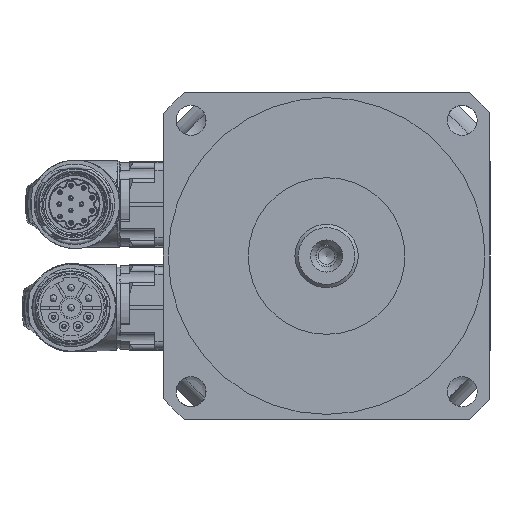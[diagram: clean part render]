
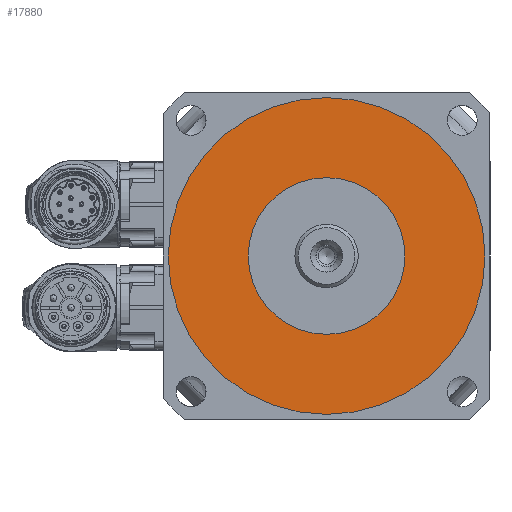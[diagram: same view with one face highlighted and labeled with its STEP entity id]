
A CAD part, left-side view. The second image highlights one B-rep face of the part: STEP entity #17880.
In plain terms, the highlighted planar face has unit normal (-1, 0, 0).
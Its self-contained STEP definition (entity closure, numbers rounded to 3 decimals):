
#3887=PLANE('',#19063);
#4591=FACE_BOUND('',#6029,.T.);
#4893=FACE_OUTER_BOUND('',#6028,.T.);
#6028=EDGE_LOOP('',(#12782));
#6029=EDGE_LOOP('',(#12783));
#7380=CIRCLE('',#19062,23.5);
#7381=CIRCLE('',#19064,47.5);
#8407=VERTEX_POINT('',#26280);
#8408=VERTEX_POINT('',#26283);
#10145=EDGE_CURVE('',#8407,#8407,#7380,.T.);
#10146=EDGE_CURVE('',#8408,#8408,#7381,.T.);
#12782=ORIENTED_EDGE('',*,*,#10146,.F.);
#12783=ORIENTED_EDGE('',*,*,#10145,.T.);
#17880=ADVANCED_FACE('',(#4893,#4591),#3887,.T.);
#19062=AXIS2_PLACEMENT_3D('',#26281,#21285,#21286);
#19063=AXIS2_PLACEMENT_3D('',#26282,#21287,#21288);
#19064=AXIS2_PLACEMENT_3D('',#26284,#21289,#21290);
#21285=DIRECTION('center_axis',(1.,0.,0.));
#21286=DIRECTION('ref_axis',(0.,1.,0.));
#21287=DIRECTION('center_axis',(-1.,0.,0.));
#21288=DIRECTION('ref_axis',(0.,0.,1.));
#21289=DIRECTION('center_axis',(1.,0.,0.));
#21290=DIRECTION('ref_axis',(0.,1.,0.));
#26280=CARTESIAN_POINT('',(-129.5,23.5,0.));
#26281=CARTESIAN_POINT('Origin',(-129.5,0.,0.));
#26282=CARTESIAN_POINT('Origin',(-129.5,35.5,0.));
#26283=CARTESIAN_POINT('',(-129.5,47.5,0.));
#26284=CARTESIAN_POINT('Origin',(-129.5,0.,0.));
